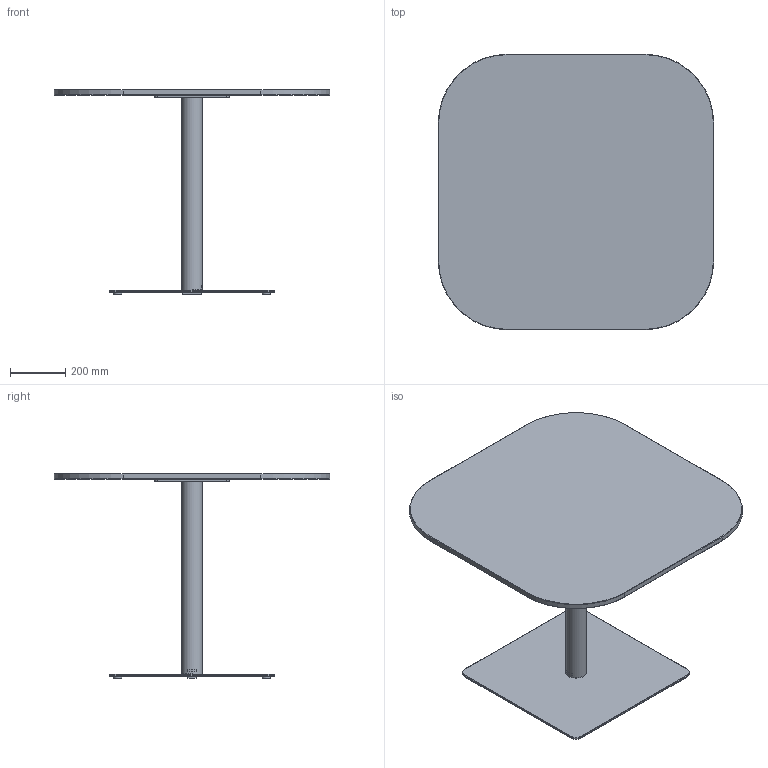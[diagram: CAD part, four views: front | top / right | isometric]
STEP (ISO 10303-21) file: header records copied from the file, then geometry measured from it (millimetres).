
FILE_DESCRIPTION( ('This file contains a STEP AP42 implementation' ,'as created by ZW3D STEP Interface translator.') ,'2;1' );
FILE_NAME( 'Henri - B_Carré - F2 - M1 - 1000 x 1000 x 750.stp' ,'24 912.163951', (''), ('ZWCAD Software Co.'), 'Version 1.0', 'ZW3D to STEP translator', '' );
FILE_SCHEMA(('AUTOMOTIVE_DESIGN { 1 0 10303 214 1 1 1 1 }'));
Length unit declared in the file: millimetre
Products named in the file (14): 0; PIED BISTROT PARAMETRIQUE_; COLONNE ACIER Ø76 V.02_; TUB-D076-02_; PLA-R76B-01_; CROIX ACIER 370 V.02_; CRX-X370-02_; SOCLE ACIER L 600x600 V.02_; SCL-R600-02_; PLA-R30A-01_; PLA-R30A-01; WUERTH 0276063020 Euro-screw 6.3x2 Verzinkt_; PLATEAU BISTROT PARAMETRIQUE_; insert_m6_13_
Assembly tree (22 placements, depth 3):
  0
  PIED BISTROT PARAMETRIQUE_
    COLONNE ACIER Ø76 V.02_
      TUB-D076-02_
      PLA-R76B-01_  x2
    CROIX ACIER 370 V.02_
      CRX-X370-02_
    SOCLE ACIER L 600x600 V.02_
      SCL-R600-02_
      PLA-R30A-01_
      PLA-R30A-01  x3
    WUERTH 0276063020 Euro-screw 6.3x2 Verzinkt_
    PLATEAU BISTROT PARAMETRIQUE_
      insert_m6_13_  x8
Bounding box: 1000 x 1000 x 744 mm (x, y, z)
Volume: 22730189.9 mm3; surface area: 3214238.1 mm2
Topology: 19 solids, 19 shells, 537 faces, 1310 edges, 822 vertices
Faces by surface type: plane 262, bspline 121, cylinder 98, cone 55, torus 1
Full cylindrical faces by diameter (mm): 4.88 x1, 6 x8, 6.3 x1, 8 x45, 12 x2, 14 x2, 30 x4, 72 x1, 76 x1
Entity records: 12310 total; most frequent: CARTESIAN_POINT 3396, ORIENTED_EDGE 1624, DIRECTION 1519, EDGE_CURVE 812, VERTEX_POINT 518, VECTOR 513, LINE 513, AXIS2_PLACEMENT_3D 503
